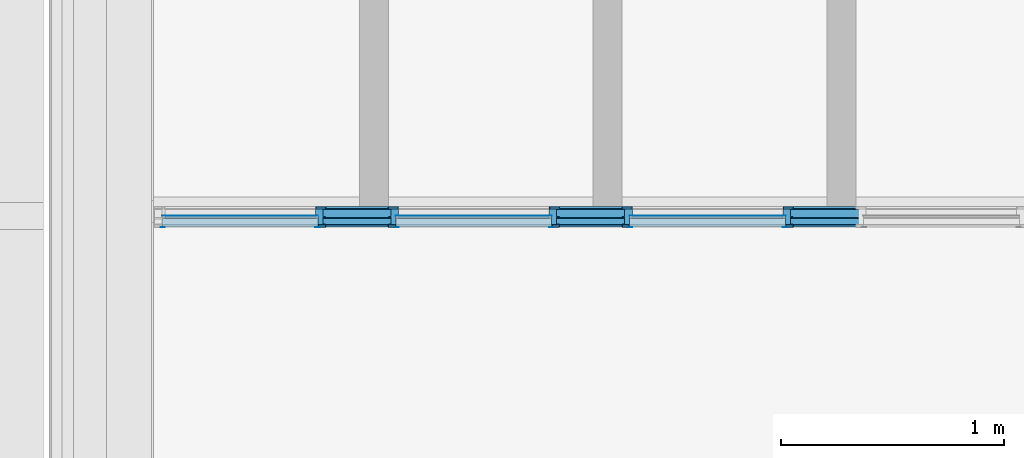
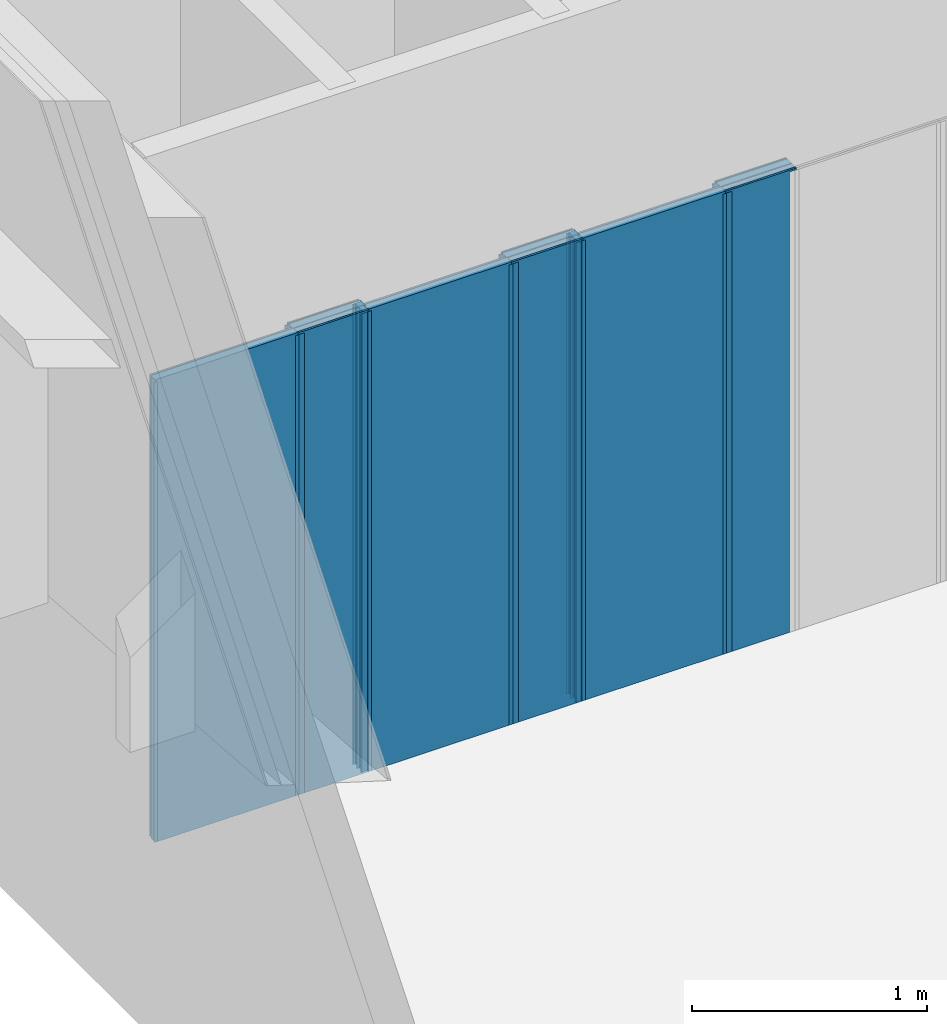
# One storey, part 20 of 89: 28 building element parts, 12 elements without a shape of their own.
"""IFC2X3 building model written with IfcOpenShell, lengths in millimetres."""

import ifcopenshell
import ifcopenshell.guid

model = None  # the IFC model being written
_history = None  # IfcOwnerHistory: only IFC2X3 demands one
_inside = {}  # id of a spatial element -> (the spatial element, [elements in it])
_under = {}  # id of a project, library or spatial element -> (it, [spatial elements below it])
_declared = {}  # id of a project -> (the project, [libraries it declares])
_typed = {}  # id of a type object -> (the type object, [elements of that type])
_made_of = {}  # id of a material, layer set ... -> (it, [elements and type objects made of it])


def new_model(schema):
    """Start an empty IFC model of exactly this schema.

    Asked for "IFC4X3", IfcOpenShell would pick the latest addendum, in which some entities
    have other attributes; the version numbers below select the first issue.
    IFC2X3 requires an IfcOwnerHistory on every rooted entity: one is made here for all.
    """
    global model, _history
    if schema == "IFC4X3":
        model = ifcopenshell.file(schema_version=(4, 3, 0, 0))
    else:
        model = ifcopenshell.file(schema=schema)
    _inside.clear()
    _under.clear()
    _declared.clear()
    _typed.clear()
    _made_of.clear()
    _history = None
    if model.schema == "IFC2X3":
        org = make("IfcOrganization", Name="unknown")
        user = make(
            "IfcPersonAndOrganization",
            ThePerson=make("IfcPerson", FamilyName="unknown"),
            TheOrganization=org,
        )
        app = make(
            "IfcApplication",
            ApplicationDeveloper=org,
            Version="unknown",
            ApplicationFullName="unknown",
            ApplicationIdentifier="unknown",
        )
        _history = make(
            "IfcOwnerHistory",
            OwningUser=user,
            OwningApplication=app,
            ChangeAction="ADDED",
            CreationDate=0,
        )
    return model


def make(cls, **values):
    """One entity of the class cls with the attributes given. An attribute that is None is left unset."""
    return model.create_entity(
        cls, **{name: value for name, value in values.items() if value is not None}
    )


def entity(cls, *values):
    """Any entity or typed value of the class cls, its attributes in the order of the schema. None: left unset."""
    e = model.create_entity(cls)
    for i, value in enumerate(values):
        if value is not None:
            e[i] = value
    return e


def rooted(cls, **values):
    """An entity with a GlobalId (a new one), such as an element, a storey or a relation."""
    return make(cls, GlobalId=ifcopenshell.guid.new(), OwnerHistory=_history, **values)


def si_unit(unit_type, name, prefix=None):
    """IfcSIUnit, for example si_unit("LENGTHUNIT", "METRE", prefix="MILLI")."""
    return make("IfcSIUnit", UnitType=unit_type, Prefix=prefix, Name=name)


def converted_unit(unit_type, name, factor, base, dimensions=None, offset=None):
    """IfcConversionBasedUnit, such as the inch: factor (a typed value) times the base unit."""
    return make(
        "IfcConversionBasedUnit"
        if offset is None
        else "IfcConversionBasedUnitWithOffset",
        ConversionOffset=offset,
        Dimensions=None
        if dimensions is None
        else entity("IfcDimensionalExponents", *dimensions),
        UnitType=unit_type,
        Name=name,
        ConversionFactor=make(
            "IfcMeasureWithUnit", ValueComponent=factor, UnitComponent=base
        ),
    )


def derived_unit(unit_type, elements):
    """IfcDerivedUnit: a product of units, each with its exponent."""
    return make(
        "IfcDerivedUnit",
        Elements=[
            make("IfcDerivedUnitElement", Unit=unit, Exponent=power)
            for unit, power in elements
        ],
        UnitType=unit_type,
    )


def money_unit(currency):
    """IfcMonetaryUnit."""
    return make("IfcMonetaryUnit", Currency=currency)


def assignment(units):
    """IfcUnitAssignment: the units of a project."""
    return None if units is None else make("IfcUnitAssignment", Units=units)


def point(xyz):
    """IfcCartesianPoint."""
    return None if xyz is None else make("IfcCartesianPoint", Coordinates=xyz)


def direction(xyz):
    """IfcDirection."""
    return None if xyz is None else make("IfcDirection", DirectionRatios=xyz)


def frame(location, z_axis=None, x_axis=None):
    """IfcAxis2Placement3D, a coordinate frame: its origin and axes. An axis left out is left unset."""
    return make(
        "IfcAxis2Placement3D",
        Location=point(location),
        Axis=direction(z_axis),
        RefDirection=direction(x_axis),
    )


def origin_with_axes():
    """The frame at (0, 0, 0) with the z axis (0, 0, 1) and the x axis (1, 0, 0) written out."""
    return frame((0.0, 0.0, 0.0), z_axis=(0.0, 0.0, 1.0), x_axis=(1.0, 0.0, 0.0))


def place(relative_to, where):
    """IfcLocalPlacement: puts the frame where relative to a parent placement (None: the world)."""
    return make(
        "IfcLocalPlacement", PlacementRelTo=relative_to, RelativePlacement=where
    )


def context(
    kind, dimensions, precision=None, world=None, true_north=None, identifier=None
):
    """IfcGeometricRepresentationContext, for example the 3D "Model" context."""
    return make(
        "IfcGeometricRepresentationContext",
        ContextIdentifier=identifier,
        ContextType=kind,
        CoordinateSpaceDimension=dimensions,
        Precision=precision,
        WorldCoordinateSystem=world,
        TrueNorth=true_north,
    )


def subcontext(parent, identifier, kind, view, scale=None):
    """IfcGeometricRepresentationSubContext, for example "Body" below "Model"."""
    return make(
        "IfcGeometricRepresentationSubContext",
        ContextIdentifier=identifier,
        ContextType=kind,
        ParentContext=parent,
        TargetScale=scale,
        TargetView=view,
    )


def project(units=None, contexts=None):
    """IfcProject with its units and contexts."""
    return rooted(
        "IfcProject",
        Name="project",
        RepresentationContexts=contexts,
        UnitsInContext=assignment(units),
    )


def spatial(cls, under=None, at=None, **own):
    """A site, building, storey or space (cls), placed at a placement, below another one or the project."""
    s = rooted(cls, ObjectPlacement=at, **own)
    if under is not None:
        _under.setdefault(under.id(), (under, []))[1].append(s)
    return s


def faces_of(points, faces, orient=None, outer=None):
    """IfcFace entities. A face is a list of loops; a loop is a list of indices into points, from 0.

    orient and outer hold one flag for each loop. By default every Orientation is true, the
    first loop of a face is its IfcFaceOuterBound and the others are IfcFaceBound.
    """
    made = []
    for i, loops in enumerate(faces):
        bounds = []
        for j, loop in enumerate(loops):
            is_outer = j == 0 if outer is None else outer[i][j]
            bounds.append(
                make(
                    "IfcFaceOuterBound" if is_outer else "IfcFaceBound",
                    Bound=make("IfcPolyLoop", Polygon=[points[k] for k in loop]),
                    Orientation=True if orient is None else orient[i][j],
                )
            )
        made.append(make("IfcFace", Bounds=bounds))
    return made


def open_shell(faces, orient=None, outer=None):
    """The faces of one IfcOpenShell. surface_model builds it on its shared points."""
    return ("IfcOpenShell", faces, orient, outer)


def faceted_brep(points, faces, orient=None, outer=None, voids=None):
    """IfcFacetedBrep: a solid bounded by flat faces; with voids (closed shells), ...WithVoids."""
    shared = [point(p) for p in points]
    hull = make("IfcClosedShell", CfsFaces=faces_of(shared, faces, orient, outer))
    if voids is None:
        return make("IfcFacetedBrep", Outer=hull)
    return make(
        "IfcFacetedBrepWithVoids",
        Outer=hull,
        Voids=[
            make(cls, CfsFaces=faces_of(shared, fs, o, b)) for cls, fs, o, b in voids
        ],
    )


def surface_model(cls, points, shells):
    """IfcFaceBasedSurfaceModel or IfcShellBasedSurfaceModel (cls): surfaces that need not close."""
    shared = [point(p) for p in points]
    made = [make(c, CfsFaces=faces_of(shared, fs, o, b)) for c, fs, o, b in shells]
    if cls == "IfcFaceBasedSurfaceModel":
        return make(cls, FbsmFaces=made)
    return make(cls, SbsmBoundary=made)


def shape(context_of_items, identifier, shape_type, items):
    """IfcShapeRepresentation: the items that make up one representation, for example the "Body"."""
    return make(
        "IfcShapeRepresentation",
        ContextOfItems=context_of_items,
        RepresentationIdentifier=identifier,
        RepresentationType=shape_type,
        Items=items,
    )


def source(mapping_origin, context_of_items, identifier, shape_type, items):
    """IfcRepresentationMap: a shape defined once, which mapped items show again and again."""
    return make(
        "IfcRepresentationMap",
        MappingOrigin=mapping_origin,
        MappedRepresentation=shape(context_of_items, identifier, shape_type, items),
    )


def transform(
    local_origin,
    x_axis=None,
    y_axis=None,
    z_axis=None,
    scale=None,
    scale2=None,
    scale3=None,
    uniform=True,
):
    """IfcCartesianTransformationOperator3D, or its non-uniform kind. x_axis, y_axis, z_axis: its Axis1, 2, 3."""
    if uniform:
        return make(
            "IfcCartesianTransformationOperator3D",
            Axis1=direction(x_axis),
            Axis2=direction(y_axis),
            LocalOrigin=point(local_origin),
            Scale=scale,
            Axis3=direction(z_axis),
        )
    return make(
        "IfcCartesianTransformationOperator3DnonUniform",
        Axis1=direction(x_axis),
        Axis2=direction(y_axis),
        LocalOrigin=point(local_origin),
        Scale=scale,
        Axis3=direction(z_axis),
        Scale2=scale2,
        Scale3=scale3,
    )


def mapped(mapping_source, mapping_target):
    """IfcMappedItem: shows the shape of a source again, moved by a transform."""
    return make(
        "IfcMappedItem", MappingSource=mapping_source, MappingTarget=mapping_target
    )


def material(Name=None, Category=None):
    """IfcMaterial."""
    return make("IfcMaterial", Name=Name, Category=Category)


def made_of(thing, what):
    """Note that an element or type object is made of a material, layer set ...; save() writes the relation."""
    if what is not None:
        _made_of.setdefault(what.id(), (what, []))[1].append(thing)
    return thing


def type_object(cls, material=None, **own):
    """A type object (cls), such as IfcWallType, which elements share."""
    return made_of(rooted(cls, **own), material)


def element(
    cls,
    number,
    at=None,
    inside=None,
    cuts=None,
    type_object=None,
    material=None,
    context=None,
    identifier="Body",
    shape_type=None,
    held_by="IfcProductDefinitionShape",
    body=None,
    shapes=None,
    **own,
):
    """One element of the class cls, such as IfcWall. Its Tag is "e" and its number.

    at: its placement. inside: the storey or other place that contains it. cuts: it is an
    opening in that element (IfcRelVoidsElement). A single representation is given by context,
    identifier, shape_type and body (its items); several are given by shapes. held_by: the class
    of the entity that holds the representations. save() writes the other relations.
    """
    e = rooted(cls, Tag="e%d" % number, ObjectPlacement=at, **own)
    if body is not None:
        shapes = [shape(context, identifier, shape_type, body)]
    if shapes is not None:
        e.Representation = make(held_by, Representations=shapes)
    if inside is not None:
        _inside.setdefault(inside.id(), (inside, []))[1].append(e)
    if cuts is not None:
        rooted(
            "IfcRelVoidsElement", RelatingBuildingElement=cuts, RelatedOpeningElement=e
        )
    if type_object is not None:
        _typed.setdefault(type_object.id(), (type_object, []))[1].append(e)
    return made_of(e, material)


def aggregate(whole, parts):
    """IfcRelAggregates: a whole, such as a stair, and the parts it consists of."""
    return rooted("IfcRelAggregates", RelatingObject=whole, RelatedObjects=parts)


def save(model, path):
    """Write the relations noted so far, then the file.

    IfcRelAggregates (storeys below a building ...), IfcRelContainedInSpatialStructure (elements
    in a storey), IfcRelDefinesByType, IfcRelAssociatesMaterial and IfcRelDeclares: one each for
    every whole, place, type object, material and project.
    """
    for whole, parts in _under.values():
        aggregate(whole, parts)
    for where, things in _inside.values():
        rooted(
            "IfcRelContainedInSpatialStructure",
            RelatedElements=things,
            RelatingStructure=where,
        )
    for kind, things in _typed.values():
        rooted("IfcRelDefinesByType", RelatedObjects=things, RelatingType=kind)
    for what, things in _made_of.values():
        rooted("IfcRelAssociatesMaterial", RelatedObjects=things, RelatingMaterial=what)
    for by, libraries in _declared.values():
        rooted("IfcRelDeclares", RelatingContext=by, RelatedDefinitions=libraries)
    model.write(path)


model = new_model("IFC2X3")

# Units and contexts
model_context = context("Model", 3, precision=0.01, world=origin_with_axes(), true_north=direction((0.0, 1.0)))
body_context = subcontext(model_context, "Body", "Model", "MODEL_VIEW")
ifc_project = project(units=[si_unit("LENGTHUNIT", "METRE", prefix="MILLI"), si_unit("AREAUNIT", "SQUARE_METRE"), si_unit("VOLUMEUNIT", "CUBIC_METRE"), converted_unit("PLANEANGLEUNIT", "DEGREE", entity("IfcPlaneAngleMeasure", 0.0174532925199), si_unit("PLANEANGLEUNIT", "RADIAN"), dimensions=[0, 0, 0, 0, 0, 0, 0]), si_unit("SOLIDANGLEUNIT", "STERADIAN"), money_unit("EUR"), converted_unit("TIMEUNIT", "Year", entity("IfcTimeMeasure", 31556926.0), si_unit("TIMEUNIT", "SECOND"), dimensions=[0, 0, 1, 0, 0, 0, 0]), si_unit("MASSUNIT", "GRAM", prefix="KILO"), si_unit("THERMODYNAMICTEMPERATUREUNIT", "DEGREE_CELSIUS"), si_unit("LUMINOUSINTENSITYUNIT", "LUMEN"), si_unit("ENERGYUNIT", "JOULE", prefix="MEGA"), derived_unit("THERMALCONDUCTANCEUNIT", [(si_unit("POWERUNIT", "WATT"), 1), (si_unit("LENGTHUNIT", "METRE"), -1), (si_unit("THERMODYNAMICTEMPERATUREUNIT", "KELVIN"), -1)]), derived_unit("SPECIFICHEATCAPACITYUNIT", [(si_unit("ENERGYUNIT", "JOULE"), 1), (si_unit("MASSUNIT", "GRAM", prefix="KILO"), -1), (si_unit("THERMODYNAMICTEMPERATUREUNIT", "KELVIN"), -1)]), derived_unit("MASSDENSITYUNIT", [(si_unit("MASSUNIT", "GRAM", prefix="KILO"), 1), (si_unit("VOLUMEUNIT", "CUBIC_METRE"), -1)])], contexts=[model_context])

# Site, building, storey
site_placement = place(None, origin_with_axes())
site = spatial("IfcSite", under=ifc_project, at=site_placement, Name="Puškini 31, Narva", CompositionType="ELEMENT")
building_placement = place(site_placement, origin_with_axes())
building = spatial("IfcBuilding", under=site, at=building_placement, Name="Narva Riigigümnaasium", CompositionType="ELEMENT")
storey_placement = place(building_placement, frame((0.0, 0.0, -3300.0), z_axis=(0.0, 0.0, 1.0), x_axis=(1.0, 0.0, 0.0)))
storey = spatial("IfcBuildingStorey", under=building, at=storey_placement, Name="1.korrus -3.3", CompositionType="ELEMENT", Elevation=-3300.0)

# Curtain wall, members, building element parts, doors, plates
curtain_wall_type = type_object("IfcCurtainWallType", Name="Curtain Wall Type", PredefinedType="NOTDEFINED")
curtain_wall_placement = place(storey_placement, frame((34541.9999996, 204639.999743, 1.06559201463e-05), z_axis=(0.0, 0.0, 1.0), x_axis=(1.0, 0.0, 0.0)))
curtain_wall = element("IfcCurtainWall", 1, at=curtain_wall_placement, inside=storey, type_object=curtain_wall_type, Name="SUS-03")
member_type_1 = type_object("IfcMemberType", Name="SA-Siseuksesüsteem-P 46 x 0", PredefinedType="MULLION")
member_1_placement = place(curtain_wall_placement, frame((-3293.17516676, 0.0, -1.06559197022e-05), z_axis=(0.0, 0.0, 1.0), x_axis=(1.0, 0.0, 0.0)))
member_1 = element("IfcMember", 2, at=member_1_placement, type_object=member_type_1, Name="Frame-SA-Siseuks-032", ObjectType="MULLION")
ifc_material_1 = material(Name="MDF")
shared_shape_1 = source(origin_with_axes(), body_context, "Body", "Brep", [
    faceted_brep([(33.9999997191, 9.99997870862, 0.0), (1.99999958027, 10.0000006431, 0.0), (1.99999958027, 10.0000006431, 2390.00000263), (33.9999997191, 9.99997870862, 2390.00000263), (33.9999997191, 0.0, 0.0), (1.99999958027, 0.0, 0.0), (1.99999958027, 0.0, 2390.00000263), (33.9999997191, 0.0, 2390.00000263)], [[[0, 1, 2, 3]], [[0, 4, 5, 1]], [[1, 5, 6, 2]], [[3, 2, 6, 7]], [[4, 0, 3, 7]], [[5, 4, 7, 6]]]),
    faceted_brep([(33.9999997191, 91.9999779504, 0.0), (-10.0000294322, 91.9999779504, 0.0), (-10.0000294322, 91.9999779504, 2390.00000263), (33.9999997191, 91.9999779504, 2390.00000263), (33.9999997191, 81.9999773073, 0.0), (-10.0000294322, 81.9999773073, 0.0), (-10.0000294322, 81.9999773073, 2390.00000263), (33.9999997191, 81.9999773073, 2390.00000263)], [[[0, 1, 2, 3]], [[0, 4, 5, 1]], [[1, 5, 6, 2]], [[3, 2, 6, 7]], [[4, 0, 3, 7]], [[5, 4, 7, 6]]]),
])
building_element_part_1_placement = place(member_1_placement, origin_with_axes())
building_element_part_1 = element("IfcBuildingElementPart", 3, at=building_element_part_1_placement, material=ifc_material_1, Name="MDF", context=body_context, shape_type="MappedRepresentation", body=[
    mapped(shared_shape_1, transform((0.0, 0.0, 0.0))),
])
member_2_placement = place(curtain_wall_placement, frame((-4343.17516676, 0.0, -1.06559197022e-05), z_axis=(0.0, 0.0, 1.0), x_axis=(1.0, 0.0, 0.0)))
member_2 = element("IfcMember", 4, at=member_2_placement, type_object=member_type_1, Name="Frame-SA-Siseuks-033", ObjectType="MULLION")
building_element_part_2_placement = place(member_2_placement, origin_with_axes())
building_element_part_2 = element("IfcBuildingElementPart", 5, at=building_element_part_2_placement, material=ifc_material_1, Name="MDF", context=body_context, shape_type="MappedRepresentation", body=[
    mapped(shared_shape_1, transform((0.0, 0.0, 0.0))),
])
member_3_placement = place(curtain_wall_placement, frame((-5393.17516676, 0.0, -1.06559197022e-05), z_axis=(0.0, 0.0, 1.0), x_axis=(1.0, 0.0, 0.0)))
member_3 = element("IfcMember", 6, at=member_3_placement, type_object=member_type_1, Name="Frame-SA-Siseuks-034", ObjectType="MULLION")
building_element_part_3_placement = place(member_3_placement, origin_with_axes())
building_element_part_3 = element("IfcBuildingElementPart", 7, at=building_element_part_3_placement, material=ifc_material_1, Name="MDF", context=body_context, shape_type="MappedRepresentation", body=[
    mapped(shared_shape_1, transform((0.0, 0.0, 0.0))),
])
ifc_material_2 = material(Name="Alumiiniumprofiil")
shared_shape_2 = source(origin_with_axes(), body_context, "Body", "Brep", [
    faceted_brep([(-12.0000002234, 47.5000006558, 0.0), (0.0, 47.5000006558, 0.0), (0.0, 47.5000006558, 2390.00000263), (-12.0000002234, 47.5000006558, 2390.00000263), (-12.0000002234, 91.9999779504, 0.0), (-10.0000006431, 91.9999779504, 0.0), (-10.0000294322, 81.9999773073, 0.0), (-9.99999927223, 81.5000003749, 0.0), (24.2499991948, 81.5000003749, 0.0), (33.9999997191, 81.5000003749, 0.0), (33.9999997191, 78.0000000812, 0.0), (22.4999997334, 78.0000000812, 0.0), (22.4999997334, 47.600000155, 0.0), (33.9999997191, 47.600000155, 0.0), (33.9999997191, 44.3999997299, 0.0), (22.4999997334, 44.3999997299, 0.0), (22.4999997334, 13.9999998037, 0.0), (33.9999997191, 13.9999998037, 0.0), (33.9999997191, 9.99997870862, 0.0), (32.0000001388, 9.99997870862, 0.0), (32.0000001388, 10.49999951, 0.0), (2.00000095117, 10.49999951, 0.0), (1.99999958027, 10.0000006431, 0.0), (2.00000095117, 0.0, 0.0), (0.0, 0.0, 0.0), (0.0, 32.9000011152, 0.0), (0.0, 32.9000011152, 2390.00000263), (0.0, 0.0, 2390.00000263), (2.00000095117, 0.0, 2390.00000263), (1.99999958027, 10.0000006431, 2390.00000263), (2.00000095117, 10.49999951, 2390.00000263), (32.0000001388, 10.49999951, 2390.00000263), (32.0000001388, 9.99997870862, 2390.00000263), (33.9999997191, 9.99997870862, 2390.00000263), (33.9999997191, 13.9999998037, 2390.00000263), (22.4999997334, 13.9999998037, 2390.00000263), (22.4999997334, 44.3999997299, 2390.00000263), (33.9999997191, 44.3999997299, 2390.00000263), (33.9999997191, 47.600000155, 2390.00000263), (22.4999997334, 47.600000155, 2390.00000263), (22.4999997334, 78.0000000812, 2390.00000263), (33.9999997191, 78.0000000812, 2390.00000263), (33.9999997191, 81.5000003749, 2390.00000263), (24.2499991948, 81.5000003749, 2390.00000263), (-9.99999927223, 81.5000003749, 2390.00000263), (-10.0000294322, 81.9999773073, 2390.00000263), (-10.0000006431, 91.9999779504, 2390.00000263), (-12.0000002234, 91.9999779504, 2390.00000263)], [[[0, 1, 2, 3]], [[0, 4, 5, 6, 7, 8, 9, 10, 11, 12, 13, 14, 15, 16, 17, 18, 19, 20, 21, 22, 23, 24, 25, 1]], [[1, 25, 26, 2]], [[3, 2, 26, 27, 28, 29, 30, 31, 32, 33, 34, 35, 36, 37, 38, 39, 40, 41, 42, 43, 44, 45, 46, 47]], [[4, 0, 3, 47]], [[5, 4, 47, 46]], [[6, 5, 46, 45]], [[7, 6, 45, 44]], [[8, 7, 44, 43]], [[9, 8, 43, 42]], [[10, 9, 42, 41]], [[11, 10, 41, 40]], [[12, 11, 40, 39]], [[13, 12, 39, 38]], [[14, 13, 38, 37]], [[15, 14, 37, 36]], [[16, 15, 36, 35]], [[17, 16, 35, 34]], [[18, 17, 34, 33]], [[19, 18, 33, 32]], [[20, 19, 32, 31]], [[21, 20, 31, 30]], [[22, 21, 30, 29]], [[23, 22, 29, 28]], [[24, 23, 28, 27]], [[25, 24, 27, 26]]]),
])
building_element_part_4_placement = place(member_1_placement, origin_with_axes())
building_element_part_4 = element("IfcBuildingElementPart", 8, at=building_element_part_4_placement, material=ifc_material_2, Name="Alumiiniumprofiil", context=body_context, shape_type="MappedRepresentation", body=[
    mapped(shared_shape_2, transform((0.0, 0.0, 0.0))),
])
aggregate(member_1, [building_element_part_1, building_element_part_4])
building_element_part_5_placement = place(member_2_placement, origin_with_axes())
building_element_part_5 = element("IfcBuildingElementPart", 9, at=building_element_part_5_placement, material=ifc_material_2, Name="Alumiiniumprofiil", context=body_context, shape_type="MappedRepresentation", body=[
    mapped(shared_shape_2, transform((0.0, 0.0, 0.0))),
])
aggregate(member_2, [building_element_part_2, building_element_part_5])
building_element_part_6_placement = place(member_3_placement, origin_with_axes())
building_element_part_6 = element("IfcBuildingElementPart", 10, at=building_element_part_6_placement, material=ifc_material_2, Name="Alumiiniumprofiil", context=body_context, shape_type="MappedRepresentation", body=[
    mapped(shared_shape_2, transform((0.0, 0.0, 0.0))),
])
aggregate(member_3, [building_element_part_3, building_element_part_6])
member_type_2 = type_object("IfcMemberType", Name="SA-Siseuksesüsteem-V 46 x 0", PredefinedType="MULLION")
member_4_placement = place(curtain_wall_placement, frame((-3993.17516676, 0.0, -1.06559197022e-05), z_axis=(0.0, 0.0, 1.0), x_axis=(1.0, 0.0, 0.0)))
member_4 = element("IfcMember", 11, at=member_4_placement, type_object=member_type_2, Name="Frame-New-Frame-033", ObjectType="MULLION")
shared_shape_3 = source(origin_with_axes(), body_context, "Body", "Brep", [
    faceted_brep([(-1.99999958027, 10.0000006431, 0.0), (-33.9999997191, 9.99997870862, 0.0), (-33.9999997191, 9.99997870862, 2390.00000263), (-1.99999958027, 10.0000006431, 2390.00000263), (-2.00000095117, 0.0, 0.0), (-33.9999997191, 0.0, 0.0), (-33.9999997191, 0.0, 2390.00000263), (-2.00000095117, 0.0, 2390.00000263)], [[[0, 1, 2, 3]], [[0, 4, 5, 1]], [[1, 5, 6, 2]], [[3, 2, 6, 7]], [[4, 0, 3, 7]], [[5, 4, 7, 6]]]),
    faceted_brep([(10.0000006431, 91.9999779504, 0.0), (-33.9999997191, 91.9999779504, 0.0), (-33.9999997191, 91.9999779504, 2390.00000263), (10.0000006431, 91.9999779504, 2390.00000263), (10.0000294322, 81.9999773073, 0.0), (-33.9999997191, 81.9999773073, 0.0), (-33.9999997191, 81.9999773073, 2390.00000263), (10.0000294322, 81.9999773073, 2390.00000263)], [[[0, 1, 2, 3]], [[0, 4, 5, 1]], [[1, 5, 6, 2]], [[3, 2, 6, 7]], [[4, 0, 3, 7]], [[5, 4, 7, 6]]]),
])
building_element_part_7_placement = place(member_4_placement, origin_with_axes())
building_element_part_7 = element("IfcBuildingElementPart", 12, at=building_element_part_7_placement, material=ifc_material_1, Name="MDF", context=body_context, shape_type="MappedRepresentation", body=[
    mapped(shared_shape_3, transform((0.0, 0.0, 0.0))),
])
member_5_placement = place(curtain_wall_placement, frame((-5043.17516676, 0.0, -1.06559197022e-05), z_axis=(0.0, 0.0, 1.0), x_axis=(1.0, 0.0, 0.0)))
member_5 = element("IfcMember", 13, at=member_5_placement, type_object=member_type_2, Name="Frame-New-Frame-034", ObjectType="MULLION")
building_element_part_8_placement = place(member_5_placement, origin_with_axes())
building_element_part_8 = element("IfcBuildingElementPart", 14, at=building_element_part_8_placement, material=ifc_material_1, Name="MDF", context=body_context, shape_type="MappedRepresentation", body=[
    mapped(shared_shape_3, transform((0.0, 0.0, 0.0))),
])
shared_shape_4 = source(origin_with_axes(), body_context, "Body", "Brep", [
    faceted_brep([(12.0000002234, 47.5000006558, 0.0), (12.0000002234, 91.9999779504, 0.0), (12.0000002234, 91.9999779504, 2390.00000263), (12.0000002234, 47.5000006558, 2390.00000263), (0.0, 47.5000006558, 0.0), (0.0, 32.9000011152, 0.0), (0.0, 0.0, 0.0), (-2.00000095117, 0.0, 0.0), (-1.99999958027, 10.0000006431, 0.0), (-2.00000095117, 10.49999951, 0.0), (-32.0000001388, 10.49999951, 0.0), (-32.0000001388, 9.99997870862, 0.0), (-33.9999997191, 9.99997870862, 0.0), (-33.9999997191, 13.9999998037, 0.0), (-22.4999997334, 13.9999998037, 0.0), (-22.4999997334, 44.3999997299, 0.0), (-33.9999997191, 44.3999997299, 0.0), (-33.9999997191, 47.600000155, 0.0), (-22.4999997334, 47.600000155, 0.0), (-22.4999997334, 78.0000000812, 0.0), (-33.9999997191, 78.0000000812, 0.0), (-33.9999997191, 81.5000003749, 0.0), (-24.2499991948, 81.5000003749, 0.0), (9.99999927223, 81.5000003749, 0.0), (10.0000294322, 81.9999773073, 0.0), (10.0000006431, 91.9999779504, 0.0), (10.0000006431, 91.9999779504, 2390.00000263), (10.0000294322, 81.9999773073, 2390.00000263), (9.99999927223, 81.5000003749, 2390.00000263), (-24.2499991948, 81.5000003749, 2390.00000263), (-33.9999997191, 81.5000003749, 2390.00000263), (-33.9999997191, 78.0000000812, 2390.00000263), (-22.4999997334, 78.0000000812, 2390.00000263), (-22.4999997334, 47.600000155, 2390.00000263), (-33.9999997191, 47.600000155, 2390.00000263), (-33.9999997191, 44.3999997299, 2390.00000263), (-22.4999997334, 44.3999997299, 2390.00000263), (-22.4999997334, 13.9999998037, 2390.00000263), (-33.9999997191, 13.9999998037, 2390.00000263), (-33.9999997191, 9.99997870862, 2390.00000263), (-32.0000001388, 9.99997870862, 2390.00000263), (-32.0000001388, 10.49999951, 2390.00000263), (-2.00000095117, 10.49999951, 2390.00000263), (-1.99999958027, 10.0000006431, 2390.00000263), (-2.00000095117, 0.0, 2390.00000263), (0.0, 0.0, 2390.00000263), (0.0, 32.9000011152, 2390.00000263), (0.0, 47.5000006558, 2390.00000263)], [[[0, 1, 2, 3]], [[0, 4, 5, 6, 7, 8, 9, 10, 11, 12, 13, 14, 15, 16, 17, 18, 19, 20, 21, 22, 23, 24, 25, 1]], [[1, 25, 26, 2]], [[3, 2, 26, 27, 28, 29, 30, 31, 32, 33, 34, 35, 36, 37, 38, 39, 40, 41, 42, 43, 44, 45, 46, 47]], [[4, 0, 3, 47]], [[5, 4, 47, 46]], [[6, 5, 46, 45]], [[7, 6, 45, 44]], [[8, 7, 44, 43]], [[9, 8, 43, 42]], [[10, 9, 42, 41]], [[11, 10, 41, 40]], [[12, 11, 40, 39]], [[13, 12, 39, 38]], [[14, 13, 38, 37]], [[15, 14, 37, 36]], [[16, 15, 36, 35]], [[17, 16, 35, 34]], [[18, 17, 34, 33]], [[19, 18, 33, 32]], [[20, 19, 32, 31]], [[21, 20, 31, 30]], [[22, 21, 30, 29]], [[23, 22, 29, 28]], [[24, 23, 28, 27]], [[25, 24, 27, 26]]]),
])
building_element_part_9_placement = place(member_4_placement, origin_with_axes())
building_element_part_9 = element("IfcBuildingElementPart", 15, at=building_element_part_9_placement, material=ifc_material_2, Name="Alumiiniumprofiil", context=body_context, shape_type="MappedRepresentation", body=[
    mapped(shared_shape_4, transform((0.0, 0.0, 0.0))),
])
aggregate(member_4, [building_element_part_7, building_element_part_9])
building_element_part_10_placement = place(member_5_placement, origin_with_axes())
building_element_part_10 = element("IfcBuildingElementPart", 16, at=building_element_part_10_placement, material=ifc_material_2, Name="Alumiiniumprofiil", context=body_context, shape_type="MappedRepresentation", body=[
    mapped(shared_shape_4, transform((0.0, 0.0, 0.0))),
])
aggregate(member_5, [building_element_part_8, building_element_part_10])
door_style = type_object("IfcDoorStyle", Name="SU-Sile 7 x 2390 x 0", ConstructionType="NOTDEFINED", OperationType="NOTDEFINED", ParameterTakesPrecedence=False, Sizeable=False)
door_1_placement = place(curtain_wall_placement, frame((-3643.17516676, 0.0, 1194.9999741), z_axis=(0.0, 0.0, 1.0), x_axis=(1.0, 0.0, 0.0)))
door_1 = element("IfcDoor", 17, at=door_1_placement, type_object=door_style, Name="G-SU-022", ObjectType="DOOR")
ifc_material_3 = material(Name="Alumiiniumprofiil (RAL 7021)")
shared_shape_5 = source(origin_with_axes(), body_context, "Body", "SurfaceModel", [
    surface_model("IfcShellBasedSurfaceModel", [(699.999996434, 0.0, 50.0), (687.999996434, 0.0, 50.0), (687.999996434, 2390.00000263, 50.0), (699.999996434, 2402.00000263, 50.0)], [open_shell([[[0, 1, 2, 3]]])]),
    surface_model("IfcShellBasedSurfaceModel", [(687.999996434, 2390.00000263, 50.0), (12.0000018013, 2390.00000263, 50.0), (1.80131154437e-06, 2402.00000263, 50.0), (699.999996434, 2402.00000263, 50.0)], [open_shell([[[0, 1, 2, 3]]])]),
    surface_model("IfcShellBasedSurfaceModel", [(12.0000018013, 2390.00000263, 50.0), (12.0000018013, 0.0, 50.0), (1.80131154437e-06, 0.0, 50.0), (1.80131154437e-06, 2402.00000263, 50.0)], [open_shell([[[0, 1, 2, 3]]])]),
    surface_model("IfcShellBasedSurfaceModel", [(707.000000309, 0.0, 0.0), (687.999996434, 0.0, 0.0), (687.999996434, 2390.00000263, 0.0), (707.000000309, 2390.00000263, 0.0)], [open_shell([[[0, 1, 2, 3]]])]),
    surface_model("IfcShellBasedSurfaceModel", [(-7.00000002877, 2390.00000263, 0.0), (12.0000018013, 2390.00000263, 0.0), (12.0000018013, 0.0, 0.0), (-7.00000002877, 0.0, 0.0)], [open_shell([[[0, 1, 2, 3]]])]),
])
building_element_part_11_placement = place(door_1_placement, origin_with_axes())
building_element_part_11 = element("IfcBuildingElementPart", 18, at=building_element_part_11_placement, material=ifc_material_3, Name="Alumiiniumprofiil (RAL 7021)", context=body_context, shape_type="MappedRepresentation", body=[
    mapped(shared_shape_5, transform((350.0, 0.0, -1194.99998476), x_axis=(-1.0, 0.0, 0.0), y_axis=(0.0, 0.0, 1.0), z_axis=(0.0, 1.0, 0.0))),
])
door_2_placement = place(curtain_wall_placement, frame((-4693.17516676, 0.0, 1194.9999741), z_axis=(0.0, 0.0, 1.0), x_axis=(1.0, 0.0, 0.0)))
door_2 = element("IfcDoor", 19, at=door_2_placement, type_object=door_style, Name="G-SU-021", ObjectType="DOOR")
building_element_part_12_placement = place(door_2_placement, origin_with_axes())
building_element_part_12 = element("IfcBuildingElementPart", 20, at=building_element_part_12_placement, material=ifc_material_3, Name="Alumiiniumprofiil (RAL 7021)", context=body_context, shape_type="MappedRepresentation", body=[
    mapped(shared_shape_5, transform((350.0, 0.0, -1194.99998476), x_axis=(-1.0, 0.0, 0.0), y_axis=(0.0, 0.0, 1.0), z_axis=(0.0, 1.0, 0.0))),
])
door_3_placement = place(curtain_wall_placement, frame((-5743.17516676, 0.0, 1194.9999741), z_axis=(0.0, 0.0, 1.0), x_axis=(1.0, 0.0, 0.0)))
door_3 = element("IfcDoor", 21, at=door_3_placement, type_object=door_style, Name="G-SU-020", ObjectType="DOOR")
building_element_part_13_placement = place(door_3_placement, origin_with_axes())
building_element_part_13 = element("IfcBuildingElementPart", 22, at=building_element_part_13_placement, material=ifc_material_3, Name="Alumiiniumprofiil (RAL 7021)", context=body_context, shape_type="MappedRepresentation", body=[
    mapped(shared_shape_5, transform((350.0, 0.0, -1194.99998476), x_axis=(-1.0, 0.0, 0.0), y_axis=(0.0, 0.0, 1.0), z_axis=(0.0, 1.0, 0.0))),
])
shared_shape_6 = source(origin_with_axes(), body_context, "Body", "Brep", [
    faceted_brep([(1.80131110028e-06, 0.0, 38.1818181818), (1.80131110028e-06, 0.0, 0.0), (699.999996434, 0.0, 0.0), (699.999996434, 0.0, 38.1818181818), (1.80131110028e-06, 2402.00000263, 38.1818181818), (1.80131110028e-06, 2402.00000263, 0.0), (699.999996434, 2402.00000263, 0.0), (699.999996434, 2402.00000263, 38.1818181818)], [[[0, 1, 2, 3]], [[4, 5, 1, 0]], [[1, 5, 6, 2]], [[3, 2, 6, 7]], [[0, 3, 7, 4]], [[7, 6, 5, 4]]]),
    faceted_brep([(12.0000017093, 0.0, 50.0), (12.0000017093, 0.0, 38.1818181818), (687.999996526, 0.0, 38.1818181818), (687.999996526, 0.0, 50.0), (12.0000017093, 2388.27428832, 50.0), (12.0000017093, 2388.27428832, 38.1818181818), (687.999996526, 2388.27428832, 38.1818181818), (687.999996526, 2388.27428832, 50.0)], [[[0, 1, 2, 3]], [[4, 5, 1, 0]], [[1, 5, 6, 2]], [[3, 2, 6, 7]], [[0, 3, 7, 4]], [[7, 6, 5, 4]]]),
])
building_element_part_14_placement = place(door_1_placement, origin_with_axes())
building_element_part_14 = element("IfcBuildingElementPart", 23, at=building_element_part_14_placement, material=ifc_material_1, Name="MDF", context=body_context, shape_type="MappedRepresentation", body=[
    mapped(shared_shape_6, transform((350.0, 0.0, -1194.99998476), x_axis=(-1.0, 0.0, 0.0), y_axis=(0.0, 0.0, 1.0), z_axis=(0.0, 1.0, 0.0))),
])
aggregate(door_1, [building_element_part_11, building_element_part_14])
building_element_part_15_placement = place(door_2_placement, origin_with_axes())
building_element_part_15 = element("IfcBuildingElementPart", 24, at=building_element_part_15_placement, material=ifc_material_1, Name="MDF", context=body_context, shape_type="MappedRepresentation", body=[
    mapped(shared_shape_6, transform((350.0, 0.0, -1194.99998476), x_axis=(-1.0, 0.0, 0.0), y_axis=(0.0, 0.0, 1.0), z_axis=(0.0, 1.0, 0.0))),
])
aggregate(door_2, [building_element_part_12, building_element_part_15])
building_element_part_16_placement = place(door_3_placement, origin_with_axes())
building_element_part_16 = element("IfcBuildingElementPart", 25, at=building_element_part_16_placement, material=ifc_material_1, Name="MDF", context=body_context, shape_type="MappedRepresentation", body=[
    mapped(shared_shape_6, transform((350.0, 0.0, -1194.99998476), x_axis=(-1.0, 0.0, 0.0), y_axis=(0.0, 0.0, 1.0), z_axis=(0.0, 1.0, 0.0))),
])
aggregate(door_3, [building_element_part_13, building_element_part_16])
plate_type = type_object("IfcPlateType", Name="SA-Siseuksesüsteem-Paneel 350 x 10 x 0", PredefinedType="CURTAIN_PANEL")
plate_1_placement = place(curtain_wall_placement, frame((-3118.17516676, 0.0, 1596.66663924), z_axis=(0.0, 0.0, 1.0), x_axis=(1.0, 0.0, 0.0)))
plate_1 = element("IfcPlate", 26, at=plate_1_placement, type_object=plate_type, Name="Panel-SA-Siseuks-058", ObjectType="CURTAIN_PANEL")
shared_shape_7 = source(origin_with_axes(), body_context, "Body", "Brep", [
    faceted_brep([(349.999997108, 2399.99998017, 0.0), (0.0, 2399.99998017, 0.0), (0.0, 2399.99998017, 10.0), (349.999997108, 2399.99998017, 10.0), (349.999997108, 2389.99998025, 0.0), (315.999997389, 2389.99998025, 0.0), (315.999997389, 0.0, 0.0), (33.9999997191, 0.0, 0.0), (33.9999997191, 2389.99998025, 0.0), (0.0, 2389.99998025, 0.0), (0.0, 2389.99998025, 10.0), (33.9999997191, 2389.99998025, 10.0), (33.9999997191, 0.0, 10.0), (315.999997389, 0.0, 10.0), (315.999997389, 2389.99998025, 10.0), (349.999997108, 2389.99998025, 10.0)], [[[0, 1, 2, 3]], [[0, 4, 5, 6, 7, 8, 9, 1]], [[1, 9, 10, 2]], [[3, 2, 10, 11, 12, 13, 14, 15]], [[4, 0, 3, 15]], [[5, 4, 15, 14]], [[6, 5, 14, 13]], [[7, 6, 13, 12]], [[8, 7, 12, 11]], [[9, 8, 11, 10]]]),
    faceted_brep([(349.999997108, 2399.99998017, 84.0), (0.0, 2399.99998017, 84.0), (0.0, 2399.99998017, 92.0), (349.999997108, 2399.99998017, 92.0), (349.999997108, 2389.99998025, 84.0), (315.999997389, 2389.99998025, 84.0), (315.999997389, 0.0, 84.0), (33.9999997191, 0.0, 84.0), (33.9999997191, 2389.99998025, 84.0), (0.0, 2389.99998025, 84.0), (0.0, 2389.99998025, 92.0), (33.9999997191, 2389.99998025, 92.0), (33.9999997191, 0.0, 92.0), (315.999997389, 0.0, 92.0), (315.999997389, 2389.99998025, 92.0), (349.999997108, 2389.99998025, 92.0)], [[[0, 1, 2, 3]], [[0, 4, 5, 6, 7, 8, 9, 1]], [[1, 9, 10, 2]], [[3, 2, 10, 11, 12, 13, 14, 15]], [[4, 0, 3, 15]], [[5, 4, 15, 14]], [[6, 5, 14, 13]], [[7, 6, 13, 12]], [[8, 7, 12, 11]], [[9, 8, 11, 10]]]),
])
building_element_part_17_placement = place(plate_1_placement, origin_with_axes())
building_element_part_17 = element("IfcBuildingElementPart", 27, at=building_element_part_17_placement, material=ifc_material_1, Name="MDF", context=body_context, shape_type="MappedRepresentation", body=[
    mapped(shared_shape_7, transform((175.0, 0.0, -1596.66664989), x_axis=(-1.0, 0.0, 0.0), y_axis=(0.0, 0.0, 1.0), z_axis=(0.0, 1.0, 0.0))),
])
plate_2_placement = place(curtain_wall_placement, frame((-4168.17516676, 0.0, 1596.66663924), z_axis=(0.0, 0.0, 1.0), x_axis=(1.0, 0.0, 0.0)))
plate_2 = element("IfcPlate", 28, at=plate_2_placement, type_object=plate_type, Name="Panel-SA-Siseuks-059", ObjectType="CURTAIN_PANEL")
building_element_part_18_placement = place(plate_2_placement, origin_with_axes())
building_element_part_18 = element("IfcBuildingElementPart", 29, at=building_element_part_18_placement, material=ifc_material_1, Name="MDF", context=body_context, shape_type="MappedRepresentation", body=[
    mapped(shared_shape_7, transform((175.0, 0.0, -1596.66664989), x_axis=(-1.0, 0.0, 0.0), y_axis=(0.0, 0.0, 1.0), z_axis=(0.0, 1.0, 0.0))),
])
plate_3_placement = place(curtain_wall_placement, frame((-5218.17516676, 0.0, 1596.66663924), z_axis=(0.0, 0.0, 1.0), x_axis=(1.0, 0.0, 0.0)))
plate_3 = element("IfcPlate", 30, at=plate_3_placement, type_object=plate_type, Name="Panel-SA-Siseuks-060", ObjectType="CURTAIN_PANEL")
aggregate(curtain_wall, [door_1, door_2, door_3, member_1, member_4, member_2, member_5, member_3, plate_1, plate_2, plate_3])
building_element_part_19_placement = place(plate_3_placement, origin_with_axes())
building_element_part_19 = element("IfcBuildingElementPart", 31, at=building_element_part_19_placement, material=ifc_material_1, Name="MDF", context=body_context, shape_type="MappedRepresentation", body=[
    mapped(shared_shape_7, transform((175.0, 0.0, -1596.66664989), x_axis=(-1.0, 0.0, 0.0), y_axis=(0.0, 0.0, 1.0), z_axis=(0.0, 1.0, 0.0))),
])
ifc_material_4 = material(Name="Õhkvahe")
shared_shape_8 = source(origin_with_axes(), body_context, "Body", "Brep", [
    faceted_brep([(349.999997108, 2399.99998017, 10.0), (0.0, 2399.99998017, 10.0), (0.0, 2399.99998017, 12.0), (349.999997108, 2399.99998017, 12.0), (349.999997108, 2389.99998025, 10.0), (315.999997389, 2389.99998025, 10.0), (315.999997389, 0.0, 10.0), (33.9999997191, 0.0, 10.0), (33.9999997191, 2389.99998025, 10.0), (0.0, 2389.99998025, 10.0), (0.0, 2389.99998025, 12.0), (33.9999997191, 2389.99998025, 12.0), (33.9999997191, 0.0, 12.0), (315.999997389, 0.0, 12.0), (315.999997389, 2389.99998025, 12.0), (349.999997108, 2389.99998025, 12.0)], [[[0, 1, 2, 3]], [[0, 4, 5, 6, 7, 8, 9, 1]], [[1, 9, 10, 2]], [[3, 2, 10, 11, 12, 13, 14, 15]], [[4, 0, 3, 15]], [[5, 4, 15, 14]], [[6, 5, 14, 13]], [[7, 6, 13, 12]], [[8, 7, 12, 11]], [[9, 8, 11, 10]]]),
    faceted_brep([(349.999997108, 2399.99998017, 38.0), (0.0, 2399.99998017, 38.0), (0.0, 2399.99998017, 42.0), (349.999997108, 2399.99998017, 42.0), (349.999997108, 2389.99998025, 38.0), (315.999997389, 2389.99998025, 38.0), (315.999997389, 0.0, 38.0), (33.9999997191, 0.0, 38.0), (33.9999997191, 2389.99998025, 38.0), (0.0, 2389.99998025, 38.0), (0.0, 2389.99998025, 42.0), (33.9999997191, 2389.99998025, 42.0), (33.9999997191, 0.0, 42.0), (315.999997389, 0.0, 42.0), (315.999997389, 2389.99998025, 42.0), (349.999997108, 2389.99998025, 42.0)], [[[0, 1, 2, 3]], [[0, 4, 5, 6, 7, 8, 9, 1]], [[1, 9, 10, 2]], [[3, 2, 10, 11, 12, 13, 14, 15]], [[4, 0, 3, 15]], [[5, 4, 15, 14]], [[6, 5, 14, 13]], [[7, 6, 13, 12]], [[8, 7, 12, 11]], [[9, 8, 11, 10]]]),
    faceted_brep([(349.999997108, 2399.99998017, 79.0), (0.0, 2399.99998017, 79.0), (0.0, 2399.99998017, 84.0), (349.999997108, 2399.99998017, 84.0), (349.999997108, 2389.99998025, 79.0), (315.999997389, 2389.99998025, 79.0), (315.999997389, 0.0, 79.0), (33.9999997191, 0.0, 79.0), (33.9999997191, 2389.99998025, 79.0), (0.0, 2389.99998025, 79.0), (0.0, 2389.99998025, 84.0), (33.9999997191, 2389.99998025, 84.0), (33.9999997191, 0.0, 84.0), (315.999997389, 0.0, 84.0), (315.999997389, 2389.99998025, 84.0), (349.999997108, 2389.99998025, 84.0)], [[[0, 1, 2, 3]], [[0, 4, 5, 6, 7, 8, 9, 1]], [[1, 9, 10, 2]], [[3, 2, 10, 11, 12, 13, 14, 15]], [[4, 0, 3, 15]], [[5, 4, 15, 14]], [[6, 5, 14, 13]], [[7, 6, 13, 12]], [[8, 7, 12, 11]], [[9, 8, 11, 10]]]),
])
building_element_part_20_placement = place(plate_1_placement, origin_with_axes())
building_element_part_20 = element("IfcBuildingElementPart", 32, at=building_element_part_20_placement, material=ifc_material_4, Name="Õhkvahe", context=body_context, shape_type="MappedRepresentation", body=[
    mapped(shared_shape_8, transform((175.0, 0.0, -1596.66664989), x_axis=(-1.0, 0.0, 0.0), y_axis=(0.0, 0.0, 1.0), z_axis=(0.0, 1.0, 0.0))),
])
building_element_part_21_placement = place(plate_2_placement, origin_with_axes())
building_element_part_21 = element("IfcBuildingElementPart", 33, at=building_element_part_21_placement, material=ifc_material_4, Name="Õhkvahe", context=body_context, shape_type="MappedRepresentation", body=[
    mapped(shared_shape_8, transform((175.0, 0.0, -1596.66664989), x_axis=(-1.0, 0.0, 0.0), y_axis=(0.0, 0.0, 1.0), z_axis=(0.0, 1.0, 0.0))),
])
building_element_part_22_placement = place(plate_3_placement, origin_with_axes())
building_element_part_22 = element("IfcBuildingElementPart", 34, at=building_element_part_22_placement, material=ifc_material_4, Name="Õhkvahe", context=body_context, shape_type="MappedRepresentation", body=[
    mapped(shared_shape_8, transform((175.0, 0.0, -1596.66664989), x_axis=(-1.0, 0.0, 0.0), y_axis=(0.0, 0.0, 1.0), z_axis=(0.0, 1.0, 0.0))),
])
ifc_material_5 = material(Name="Kipsplaat")
shared_shape_9 = source(origin_with_axes(), body_context, "Body", "Brep", [
    faceted_brep([(349.999997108, 2399.99998017, 12.0), (0.0, 2399.99998017, 12.0), (0.0, 2399.99998017, 25.0), (349.999997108, 2399.99998017, 25.0), (349.999997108, 2389.99998025, 12.0), (315.999997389, 2389.99998025, 12.0), (315.999997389, 0.0, 12.0), (33.9999997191, 0.0, 12.0), (33.9999997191, 2389.99998025, 12.0), (0.0, 2389.99998025, 12.0), (0.0, 2389.99998025, 25.0), (33.9999997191, 2389.99998025, 25.0), (33.9999997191, 0.0, 25.0), (315.999997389, 0.0, 25.0), (315.999997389, 2389.99998025, 25.0), (349.999997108, 2389.99998025, 25.0)], [[[0, 1, 2, 3]], [[0, 4, 5, 6, 7, 8, 9, 1]], [[1, 9, 10, 2]], [[3, 2, 10, 11, 12, 13, 14, 15]], [[4, 0, 3, 15]], [[5, 4, 15, 14]], [[6, 5, 14, 13]], [[7, 6, 13, 12]], [[8, 7, 12, 11]], [[9, 8, 11, 10]]]),
    faceted_brep([(349.999997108, 2399.99998017, 25.0), (0.0, 2399.99998017, 25.0), (0.0, 2399.99998017, 38.0), (349.999997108, 2399.99998017, 38.0), (349.999997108, 2389.99998025, 25.0), (315.999997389, 2389.99998025, 25.0), (315.999997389, 0.0, 25.0), (33.9999997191, 0.0, 25.0), (33.9999997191, 2389.99998025, 25.0), (0.0, 2389.99998025, 25.0), (0.0, 2389.99998025, 38.0), (33.9999997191, 2389.99998025, 38.0), (33.9999997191, 0.0, 38.0), (315.999997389, 0.0, 38.0), (315.999997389, 2389.99998025, 38.0), (349.999997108, 2389.99998025, 38.0)], [[[0, 1, 2, 3]], [[0, 4, 5, 6, 7, 8, 9, 1]], [[1, 9, 10, 2]], [[3, 2, 10, 11, 12, 13, 14, 15]], [[4, 0, 3, 15]], [[5, 4, 15, 14]], [[6, 5, 14, 13]], [[7, 6, 13, 12]], [[8, 7, 12, 11]], [[9, 8, 11, 10]]]),
])
building_element_part_23_placement = place(plate_1_placement, origin_with_axes())
building_element_part_23 = element("IfcBuildingElementPart", 35, at=building_element_part_23_placement, material=ifc_material_5, Name="Kipsplaat", context=body_context, shape_type="MappedRepresentation", body=[
    mapped(shared_shape_9, transform((175.0, 0.0, -1596.66664989), x_axis=(-1.0, 0.0, 0.0), y_axis=(0.0, 0.0, 1.0), z_axis=(0.0, 1.0, 0.0))),
])
building_element_part_24_placement = place(plate_2_placement, origin_with_axes())
building_element_part_24 = element("IfcBuildingElementPart", 36, at=building_element_part_24_placement, material=ifc_material_5, Name="Kipsplaat", context=body_context, shape_type="MappedRepresentation", body=[
    mapped(shared_shape_9, transform((175.0, 0.0, -1596.66664989), x_axis=(-1.0, 0.0, 0.0), y_axis=(0.0, 0.0, 1.0), z_axis=(0.0, 1.0, 0.0))),
])
building_element_part_25_placement = place(plate_3_placement, origin_with_axes())
building_element_part_25 = element("IfcBuildingElementPart", 37, at=building_element_part_25_placement, material=ifc_material_5, Name="Kipsplaat", context=body_context, shape_type="MappedRepresentation", body=[
    mapped(shared_shape_9, transform((175.0, 0.0, -1596.66664989), x_axis=(-1.0, 0.0, 0.0), y_axis=(0.0, 0.0, 1.0), z_axis=(0.0, 1.0, 0.0))),
])
ifc_material_6 = material(Name="Klaasvill")
shared_shape_10 = source(origin_with_axes(), body_context, "Body", "Brep", [
    faceted_brep([(349.999997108, 2399.99998017, 42.0), (0.0, 2399.99998017, 42.0), (0.0, 2399.99998017, 79.0), (349.999997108, 2399.99998017, 79.0), (349.999997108, 2389.99998025, 42.0), (315.999997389, 2389.99998025, 42.0), (315.999997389, 0.0, 42.0), (33.9999997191, 0.0, 42.0), (33.9999997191, 2389.99998025, 42.0), (0.0, 2389.99998025, 42.0), (0.0, 2389.99998025, 79.0), (33.9999997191, 2389.99998025, 79.0), (33.9999997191, 0.0, 79.0), (315.999997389, 0.0, 79.0), (315.999997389, 2389.99998025, 79.0), (349.999997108, 2389.99998025, 79.0)], [[[0, 1, 2, 3]], [[0, 4, 5, 6, 7, 8, 9, 1]], [[1, 9, 10, 2]], [[3, 2, 10, 11, 12, 13, 14, 15]], [[4, 0, 3, 15]], [[5, 4, 15, 14]], [[6, 5, 14, 13]], [[7, 6, 13, 12]], [[8, 7, 12, 11]], [[9, 8, 11, 10]]]),
])
building_element_part_26_placement = place(plate_1_placement, origin_with_axes())
building_element_part_26 = element("IfcBuildingElementPart", 38, at=building_element_part_26_placement, material=ifc_material_6, Name="Klaasvill", context=body_context, shape_type="MappedRepresentation", body=[
    mapped(shared_shape_10, transform((175.0, 0.0, -1596.66664989), x_axis=(-1.0, 0.0, 0.0), y_axis=(0.0, 0.0, 1.0), z_axis=(0.0, 1.0, 0.0))),
])
aggregate(plate_1, [building_element_part_17, building_element_part_20, building_element_part_23, building_element_part_26])
building_element_part_27_placement = place(plate_2_placement, origin_with_axes())
building_element_part_27 = element("IfcBuildingElementPart", 39, at=building_element_part_27_placement, material=ifc_material_6, Name="Klaasvill", context=body_context, shape_type="MappedRepresentation", body=[
    mapped(shared_shape_10, transform((175.0, 0.0, -1596.66664989), x_axis=(-1.0, 0.0, 0.0), y_axis=(0.0, 0.0, 1.0), z_axis=(0.0, 1.0, 0.0))),
])
aggregate(plate_2, [building_element_part_18, building_element_part_21, building_element_part_24, building_element_part_27])
building_element_part_28_placement = place(plate_3_placement, origin_with_axes())
building_element_part_28 = element("IfcBuildingElementPart", 40, at=building_element_part_28_placement, material=ifc_material_6, Name="Klaasvill", context=body_context, shape_type="MappedRepresentation", body=[
    mapped(shared_shape_10, transform((175.0, 0.0, -1596.66664989), x_axis=(-1.0, 0.0, 0.0), y_axis=(0.0, 0.0, 1.0), z_axis=(0.0, 1.0, 0.0))),
])
aggregate(plate_3, [building_element_part_19, building_element_part_22, building_element_part_25, building_element_part_28])

save(model, "model.ifc")
